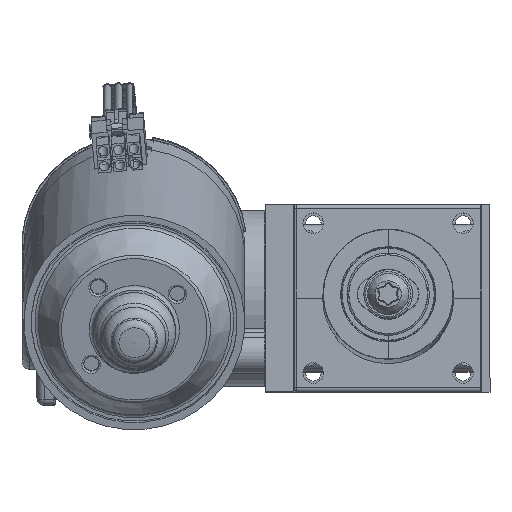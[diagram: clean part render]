
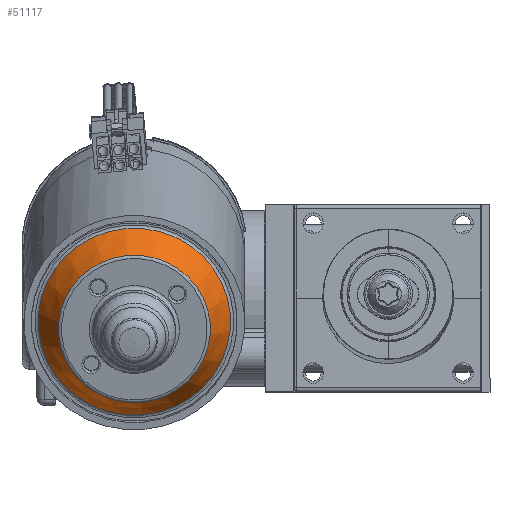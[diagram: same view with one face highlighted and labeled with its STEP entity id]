
A CAD part, top view. The second image highlights one B-rep face of the part: STEP entity #51117.
In plain terms, the highlighted conical face has half-angle 33.755 degrees and reference radius 23 mm.
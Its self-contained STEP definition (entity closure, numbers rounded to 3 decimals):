
#1352=CONICAL_SURFACE('',#54568,23.,0.589);
#3599=LINE('',#79797,#7272);
#7272=VECTOR('',#61803,23.);
#11790=FACE_OUTER_BOUND('',#14815,.T.);
#14815=EDGE_LOOP('',(#34898,#34899,#34900,#34901));
#17932=CIRCLE('',#54561,25.703);
#17937=CIRCLE('',#54569,20.297);
#21164=VERTEX_POINT('',#79782);
#21168=VERTEX_POINT('',#79796);
#26305=EDGE_CURVE('',#21164,#21164,#17932,.T.);
#26311=EDGE_CURVE('',#21164,#21168,#3599,.T.);
#26312=EDGE_CURVE('',#21168,#21168,#17937,.T.);
#34898=ORIENTED_EDGE('',*,*,#26305,.F.);
#34899=ORIENTED_EDGE('',*,*,#26311,.T.);
#34900=ORIENTED_EDGE('',*,*,#26312,.F.);
#34901=ORIENTED_EDGE('',*,*,#26311,.F.);
#51117=ADVANCED_FACE('',(#11790),#1352,.T.);
#54561=AXIS2_PLACEMENT_3D('',#79784,#61786,#61787);
#54568=AXIS2_PLACEMENT_3D('',#79795,#61801,#61802);
#54569=AXIS2_PLACEMENT_3D('',#79798,#61804,#61805);
#61786=DIRECTION('center_axis',(0.,0.242,-0.97));
#61787=DIRECTION('ref_axis',(-0.906,0.41,0.102));
#61801=DIRECTION('center_axis',(0.,0.242,-0.97));
#61802=DIRECTION('ref_axis',(-0.906,0.41,0.102));
#61803=DIRECTION('',(-0.504,0.027,0.864));
#61804=DIRECTION('center_axis',(0.,-0.242,
0.97));
#61805=DIRECTION('ref_axis',(-0.906,0.41,0.102));
#79782=CARTESIAN_POINT('',(16.595,-25.003,97.001));
#79784=CARTESIAN_POINT('Origin',(-6.7,-14.463,99.628));
#79795=CARTESIAN_POINT('Origin',(-6.7,-15.441,103.553));
#79796=CARTESIAN_POINT('',(11.695,-24.743,105.402));
#79797=CARTESIAN_POINT('',(14.145,-24.873,101.201));
#79798=CARTESIAN_POINT('Origin',(-6.7,-16.42,107.477));
